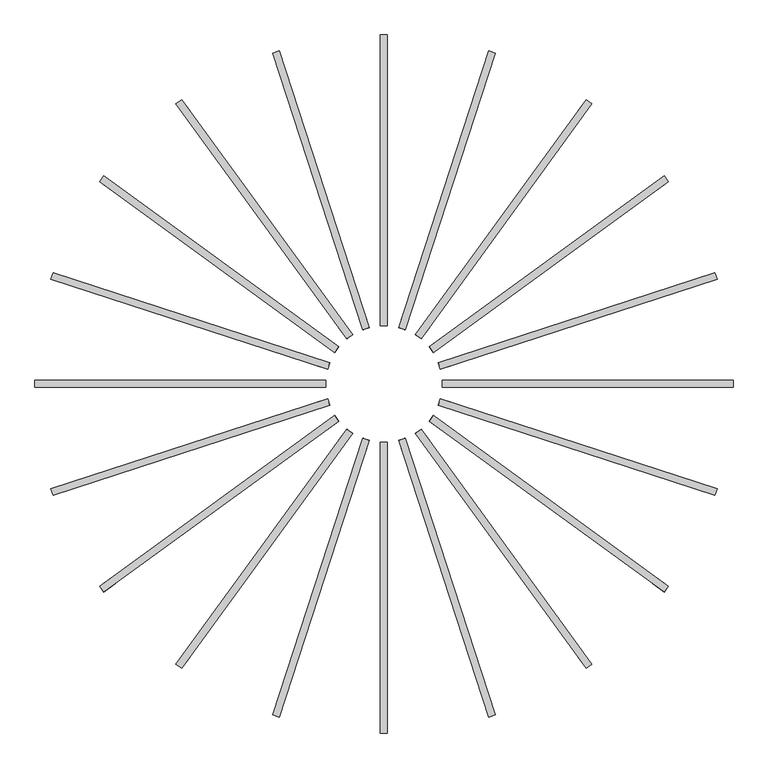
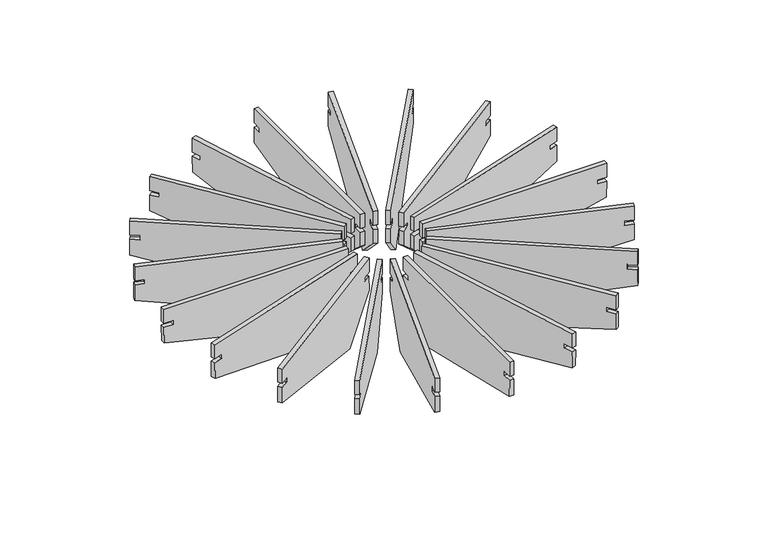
"""IFC4 building model written with IfcOpenShell, lengths in millimetres: proxy geometry, Drizzle 7.3dm."""

from ifc_helpers import new_model, si_unit, origin, place, context, project, spatial, faceted_brep, source, transform, mapped, element, save


def generic_models_dbc1dc67(model_context):
    return source(origin(), model_context, "Body", "Brep", [
        faceted_brep([(19032.1084725, 642.9735529, -8.9371706), (19032.1084858, 642.9735486, -48.9371706), (19028.4003086, 631.5608617, -48.9371706), (19028.4002953, 631.5608661, -8.9371706), (19055.9157291, 635.2381681, -48.9371706), (19052.207552, 623.8254812, -48.9371706), (19055.9157291, 635.2381681, -60.9371706), (19052.207552, 623.8254812, -60.9371706), (19032.1798698, 642.9503547, -60.9379216), (19028.4716926, 631.5376678, -60.9379216), (19032.1084414, 642.973563, -100.9371706), (19028.4002642, 631.5608762, -100.9371706), (19138.5574659, 608.3864543, -198.2564208), (19134.8492887, 596.9737674, -198.2564208), (19507.2102257, 488.6048673, -105.9327302), (19503.5020485, 477.1921804, -105.9327302), (19507.6381633, 488.4658231, -60.9371706), (19503.9299861, 477.0531362, -60.9371706), (19483.9987457, 496.1466742, -60.9371706), (19480.2905686, 484.7339873, -60.9371706), (19483.9987457, 496.1466742, -48.9371706), (19480.2905686, 484.7339873, -48.9371706), (19507.6381633, 488.4658231, -48.9371706), (19503.9299861, 477.0531362, -48.9371706), (19507.6381944, 488.465813, -8.9371706), (19503.9300172, 477.0531261, -8.9371706)], [[[0, 1, 2, 3]], [[1, 4, 5, 2]], [[4, 6, 7, 5]], [[6, 8, 9, 7]], [[8, 10, 11, 9]], [[10, 12, 13, 11]], [[12, 14, 15, 13]], [[14, 16, 17, 15]], [[16, 18, 19, 17]], [[18, 20, 21, 19]], [[20, 22, 23, 21]], [[22, 24, 25, 23]], [[24, 0, 3, 25]], [[0, 24, 22, 20, 18, 16, 14, 12, 10, 8, 6, 4, 1]], [[3, 2, 5, 7, 9, 11, 13, 15, 17, 19, 21, 23, 25]]]),
        faceted_brep([(19019.5771808, 614.2444985, -8.9371706), (19019.5771922, 614.2444903, -48.9371706), (19012.5237602, 604.5362928, -48.9371706), (19012.5237489, 604.5363011, -8.9371706), (19039.828814, 599.5307972, -48.9371706), (19032.775382, 589.8225998, -48.9371706), (19039.828814, 599.5307972, -60.9371706), (19032.775382, 589.8225998, -60.9371706), (19019.637915, 614.2003725, -60.9379216), (19012.584483, 604.4921751, -60.9379216), (19019.5771544, 614.2445177, -100.9371706), (19012.5237224, 604.5363203, -100.9371706), (19110.1279734, 548.4553691, -198.2564208), (19103.0745414, 538.7471716, -198.2564208), (19423.7222924, 320.6153177, -105.9327302), (19416.6688604, 310.9071202, -105.9327302), (19424.0863173, 320.3508375, -60.9371706), (19417.0328853, 310.6426401, -60.9371706), (19403.9774565, 334.9608085, -60.9371706), (19396.9240245, 325.2526111, -60.9371706), (19403.9774565, 334.9608085, -48.9371706), (19396.9240245, 325.2526111, -48.9371706), (19424.0863173, 320.3508375, -48.9371706), (19417.0328853, 310.6426401, -48.9371706), (19424.0863438, 320.3508183, -8.9371706), (19417.0329118, 310.6426209, -8.9371706)], [[[0, 1, 2, 3]], [[1, 4, 5, 2]], [[4, 6, 7, 5]], [[6, 8, 9, 7]], [[8, 10, 11, 9]], [[10, 12, 13, 11]], [[12, 14, 15, 13]], [[14, 16, 17, 15]], [[16, 18, 19, 17]], [[18, 20, 21, 19]], [[20, 22, 23, 21]], [[22, 24, 25, 23]], [[24, 0, 3, 25]], [[0, 24, 22, 20, 18, 16, 14, 12, 10, 8, 6, 4, 1]], [[3, 2, 5, 7, 9, 11, 13, 15, 17, 19, 21, 23, 25]]]),
        faceted_brep([(18998.7818063, 590.7943515, -8.9371706), (18998.7818145, 590.7943402, -48.9371706), (18989.0736206, 583.7409033, -48.9371706), (18989.0736124, 583.7409147, -8.9371706), (19013.4955178, 570.5427258, -48.9371706), (19003.7873239, 563.489289, -48.9371706), (19013.4955178, 570.5427258, -60.9371706), (19003.7873239, 563.489289, -60.9371706), (18998.8259323, 590.7336175, -60.9379216), (18989.1177384, 583.6801806, -60.9379216), (18998.7817871, 590.794378, -100.9371706), (18989.0735932, 583.7409411, -100.9371706), (19064.5709814, 500.2435922, -198.2564208), (19054.8627875, 493.1901553, -198.2564208), (19292.411191, 186.6493882, -105.9327302), (19282.7029972, 179.5959513, -105.9327302), (19292.6756713, 186.2853634, -60.9371706), (19282.9674775, 179.2319265, -60.9371706), (19278.0656902, 206.3942168, -60.9371706), (19268.3574964, 199.34078, -60.9371706), (19278.0656902, 206.3942168, -48.9371706), (19268.3574964, 199.34078, -48.9371706), (19292.6756713, 186.2853634, -48.9371706), (19282.9674775, 179.2319265, -48.9371706), (19292.6756906, 186.2853369, -8.9371706), (19282.9674967, 179.2319, -8.9371706)], [[[0, 1, 2, 3]], [[1, 4, 5, 2]], [[4, 6, 7, 5]], [[6, 8, 9, 7]], [[8, 10, 11, 9]], [[10, 12, 13, 11]], [[12, 14, 15, 13]], [[14, 16, 17, 15]], [[16, 18, 19, 17]], [[18, 20, 21, 19]], [[20, 22, 23, 21]], [[22, 24, 25, 23]], [[24, 0, 3, 25]], [[0, 24, 22, 20, 18, 16, 14, 12, 10, 8, 6, 4, 1]], [[3, 2, 5, 7, 9, 11, 13, 15, 17, 19, 21, 23, 25]]]),
        faceted_brep([(18971.7569727, 574.9176829, -8.9371706), (18971.756977, 574.9176696, -48.9371706), (18960.344281, 571.2095205, -48.9371706), (18960.3442767, 571.2095338, -8.9371706), (18979.492299, 551.1104072, -48.9371706), (18968.0796029, 547.4022581, -48.9371706), (18979.492299, 551.1104072, -60.9371706), (18968.0796029, 547.4022581, -60.9371706), (18971.7801707, 574.8462855, -60.9379216), (18960.3674747, 571.1381364, -60.9379216), (18971.7569626, 574.917714, -100.9371706), (18960.3442666, 571.2095649, -100.9371706), (19006.3438093, 468.4686043, -198.2564208), (18994.9311133, 464.7604553, -198.2564208), (19126.1244888, 99.8155496, -105.9327302), (19114.7117927, 96.1074006, -105.9327302), (19126.263532, 99.3876117, -60.9371706), (19114.8508359, 95.6794626, -60.9371706), (19118.5827391, 123.0270482, -60.9371706), (19107.170043, 119.3188991, -60.9371706), (19118.5827391, 123.0270482, -48.9371706), (19107.170043, 119.3188991, -48.9371706), (19126.263532, 99.3876117, -48.9371706), (19114.8508359, 95.6794626, -48.9371706), (19126.2635421, 99.3875806, -8.9371706), (19114.850846, 95.6794315, -8.9371706)], [[[0, 1, 2, 3]], [[1, 4, 5, 2]], [[4, 6, 7, 5]], [[6, 8, 9, 7]], [[8, 10, 11, 9]], [[10, 12, 13, 11]], [[12, 14, 15, 13]], [[14, 16, 17, 15]], [[16, 18, 19, 17]], [[18, 20, 21, 19]], [[20, 22, 23, 21]], [[22, 24, 25, 23]], [[24, 0, 3, 25]], [[0, 24, 22, 20, 18, 16, 14, 12, 10, 8, 6, 4, 1]], [[3, 2, 5, 7, 9, 11, 13, 15, 17, 19, 21, 23, 25]]]),
        faceted_brep([(18941.1497302, 568.1694636, -8.9371706), (18941.1497302, 568.1694496, -48.9371706), (18929.1497302, 568.1694496, -48.9371706), (18929.1497302, 568.1694636, -8.9371706), (18941.1497302, 543.1370516, -48.9371706), (18929.1497302, 543.1370516, -48.9371706), (18941.1497302, 543.1370516, -60.9371706), (18929.1497302, 543.1370516, -60.9371706), (18941.1497302, 568.094392, -60.9379216), (18929.1497302, 568.094392, -60.9379216), (18941.1497302, 568.1694963, -100.9371706), (18929.1497302, 568.1694963, -100.9371706), (18941.1497302, 456.2424535, -198.2564208), (18929.1497302, 456.2424535, -198.2564208), (18941.1497302, 68.618298, -105.9327302), (18929.1497302, 68.618298, -105.9327302), (18941.1497302, 68.1683381, -60.9371706), (18929.1497302, 68.1683381, -60.9371706), (18941.1497302, 93.0242738, -60.9371706), (18929.1497302, 93.0242738, -60.9371706), (18941.1497302, 93.0242738, -48.9371706), (18929.1497302, 93.0242738, -48.9371706), (18941.1497302, 68.1683381, -48.9371706), (18929.1497302, 68.1683381, -48.9371706), (18941.1497302, 68.1683055, -8.9371706), (18929.1497302, 68.1683055, -8.9371706)], [[[0, 1, 2, 3]], [[1, 4, 5, 2]], [[4, 6, 7, 5]], [[6, 8, 9, 7]], [[8, 10, 11, 9]], [[10, 12, 13, 11]], [[12, 14, 15, 13]], [[14, 16, 17, 15]], [[16, 18, 19, 17]], [[18, 20, 21, 19]], [[20, 22, 23, 21]], [[22, 24, 25, 23]], [[24, 0, 3, 25]], [[0, 24, 22, 20, 18, 16, 14, 12, 10, 8, 6, 4, 1]], [[3, 2, 5, 7, 9, 11, 13, 15, 17, 19, 21, 23, 25]]]),
        faceted_brep([(18909.954945, 571.2095958, -8.9371706), (18909.9549406, 571.2095825, -48.9371706), (18898.5422538, 574.9177597, -48.9371706), (18898.5422581, 574.917773, -8.9371706), (18902.2195601, 547.4023391, -48.9371706), (18890.8068732, 551.1105163, -48.9371706), (18902.2195601, 547.4023391, -60.9371706), (18890.8068732, 551.1105163, -60.9371706), (18909.9317468, 571.1381985, -60.9379216), (18898.5190599, 574.8463757, -60.9379216), (18909.9549551, 571.2096269, -100.9371706), (18898.5422682, 574.9178041, -100.9371706), (18875.3678463, 464.7606024, -198.2564208), (18863.9551595, 468.4687796, -198.2564208), (18755.5862594, 96.1078426, -105.9327302), (18744.1735725, 99.8160198, -105.9327302), (18755.4472151, 95.679905, -60.9371706), (18744.0345282, 99.3880822, -60.9371706), (18763.1280662, 119.3193226, -60.9371706), (18751.7153793, 123.0274997, -60.9371706), (18763.1280662, 119.3193226, -48.9371706), (18751.7153793, 123.0274997, -48.9371706), (18755.4472151, 95.679905, -48.9371706), (18744.0345282, 99.3880822, -48.9371706), (18755.447205, 95.6798739, -8.9371706), (18744.0345181, 99.3880511, -8.9371706)], [[[0, 1, 2, 3]], [[1, 4, 5, 2]], [[4, 6, 7, 5]], [[6, 8, 9, 7]], [[8, 10, 11, 9]], [[10, 12, 13, 11]], [[12, 14, 15, 13]], [[14, 16, 17, 15]], [[16, 18, 19, 17]], [[18, 20, 21, 19]], [[20, 22, 23, 21]], [[22, 24, 25, 23]], [[24, 0, 3, 25]], [[0, 24, 22, 20, 18, 16, 14, 12, 10, 8, 6, 4, 1]], [[3, 2, 5, 7, 9, 11, 13, 15, 17, 19, 21, 23, 25]]]),
        faceted_brep([(18881.2258905, 583.7408875, -8.9371706), (18881.2258823, 583.7408761, -48.9371706), (18871.5176849, 590.7943081, -48.9371706), (18871.5176931, 590.7943194, -8.9371706), (18866.5121892, 563.4892543, -48.9371706), (18856.8039918, 570.5426863, -48.9371706), (18866.5121892, 563.4892543, -60.9371706), (18856.8039918, 570.5426863, -60.9371706), (18881.1817645, 583.6801533, -60.9379216), (18871.4735671, 590.7335853, -60.9379216), (18881.2259097, 583.7409139, -100.9371706), (18871.5177123, 590.7943459, -100.9371706), (18815.4367611, 493.1900949, -198.2564208), (18805.7285637, 500.2435269, -198.2564208), (18587.5967097, 179.5957759, -105.9327302), (18577.8885123, 186.6492079, -105.9327302), (18587.3322296, 179.231751, -60.9371706), (18577.6240321, 186.2851829, -60.9371706), (18601.9422005, 199.3406118, -60.9371706), (18592.2340031, 206.3940438, -60.9371706), (18601.9422005, 199.3406118, -48.9371706), (18592.2340031, 206.3940438, -48.9371706), (18587.3322296, 179.231751, -48.9371706), (18577.6240321, 186.2851829, -48.9371706), (18587.3322104, 179.2317245, -8.9371706), (18577.6240129, 186.2851565, -8.9371706)], [[[0, 1, 2, 3]], [[1, 4, 5, 2]], [[4, 6, 7, 5]], [[6, 8, 9, 7]], [[8, 10, 11, 9]], [[10, 12, 13, 11]], [[12, 14, 15, 13]], [[14, 16, 17, 15]], [[16, 18, 19, 17]], [[18, 20, 21, 19]], [[20, 22, 23, 21]], [[22, 24, 25, 23]], [[24, 0, 3, 25]], [[0, 24, 22, 20, 18, 16, 14, 12, 10, 8, 6, 4, 1]], [[3, 2, 5, 7, 9, 11, 13, 15, 17, 19, 21, 23, 25]]]),
        faceted_brep([(18857.7757436, 604.536262, -8.9371706), (18857.7757322, 604.5362538, -48.9371706), (18850.7222954, 614.2444476, -48.9371706), (18850.7223067, 614.2444559, -8.9371706), (18837.5241179, 589.8225505, -48.9371706), (18830.470681, 599.5307444, -48.9371706), (18837.5241179, 589.8225505, -60.9371706), (18830.470681, 599.5307444, -60.9371706), (18857.7150095, 604.492136, -60.9379216), (18850.6615726, 614.2003299, -60.9379216), (18857.77577, 604.5362812, -100.9371706), (18850.7223331, 614.2444751, -100.9371706), (18767.2249842, 538.7470869, -198.2564208), (18760.1715473, 548.4552808, -198.2564208), (18453.6307802, 310.9068772, -105.9327302), (18446.5773433, 320.6150711, -105.9327302), (18453.2667554, 310.6423969, -60.9371706), (18446.2133185, 320.3505908, -60.9371706), (18473.3756089, 325.252378, -60.9371706), (18466.322172, 334.9605719, -60.9371706), (18473.3756089, 325.252378, -48.9371706), (18466.322172, 334.9605719, -48.9371706), (18453.2667554, 310.6423969, -48.9371706), (18446.2133185, 320.3505908, -48.9371706), (18453.2667289, 310.6423777, -8.9371706), (18446.2132921, 320.3505716, -8.9371706)], [[[0, 1, 2, 3]], [[1, 4, 5, 2]], [[4, 6, 7, 5]], [[6, 8, 9, 7]], [[8, 10, 11, 9]], [[10, 12, 13, 11]], [[12, 14, 15, 13]], [[14, 16, 17, 15]], [[16, 18, 19, 17]], [[18, 20, 21, 19]], [[20, 22, 23, 21]], [[22, 24, 25, 23]], [[24, 0, 3, 25]], [[0, 24, 22, 20, 18, 16, 14, 12, 10, 8, 6, 4, 1]], [[3, 2, 5, 7, 9, 11, 13, 15, 17, 19, 21, 23, 25]]]),
        faceted_brep([(18841.8990749, 631.5610956, -8.9371706), (18841.8990616, 631.5610913, -48.9371706), (18838.1909125, 642.9737873, -48.9371706), (18838.1909258, 642.9737916, -8.9371706), (18818.0917992, 623.8257693, -48.9371706), (18814.3836501, 635.2384653, -48.9371706), (18818.0917992, 623.8257693, -60.9371706), (18814.3836501, 635.2384653, -60.9371706), (18841.8276775, 631.5378976, -60.9379216), (18838.1195284, 642.9505936, -60.9379216), (18841.899106, 631.5611057, -100.9371706), (18838.1909569, 642.9738017, -100.9371706), (18735.4499964, 596.974259, -198.2564208), (18731.7418473, 608.386955, -198.2564208), (18366.7969417, 477.1935795, -105.9327302), (18363.0887926, 488.6062756, -105.9327302), (18366.3690037, 477.0545363, -60.9371706), (18362.6608546, 488.4672324, -60.9371706), (18390.0084402, 484.7353292, -60.9371706), (18386.3002911, 496.1480253, -60.9371706), (18390.0084402, 484.7353292, -48.9371706), (18386.3002911, 496.1480253, -48.9371706), (18366.3690037, 477.0545363, -48.9371706), (18362.6608546, 488.4672324, -48.9371706), (18366.3689726, 477.0545262, -8.9371706), (18362.6608236, 488.4672223, -8.9371706)], [[[0, 1, 2, 3]], [[1, 4, 5, 2]], [[4, 6, 7, 5]], [[6, 8, 9, 7]], [[8, 10, 11, 9]], [[10, 12, 13, 11]], [[12, 14, 15, 13]], [[14, 16, 17, 15]], [[16, 18, 19, 17]], [[18, 20, 21, 19]], [[20, 22, 23, 21]], [[22, 24, 25, 23]], [[24, 0, 3, 25]], [[0, 24, 22, 20, 18, 16, 14, 12, 10, 8, 6, 4, 1]], [[3, 2, 5, 7, 9, 11, 13, 15, 17, 19, 21, 23, 25]]]),
        faceted_brep([(18835.1508556, 662.1683381, -8.9371706), (18835.1508416, 662.1683381, -48.9371706), (18835.1508416, 674.1683381, -48.9371706), (18835.1508556, 674.1683381, -8.9371706), (18810.1184436, 662.1683381, -48.9371706), (18810.1184436, 674.1683381, -48.9371706), (18810.1184436, 662.1683381, -60.9371706), (18810.1184436, 674.1683381, -60.9371706), (18835.0757841, 662.1683381, -60.9379216), (18835.0757841, 674.1683381, -60.9379216), (18835.1508883, 662.1683381, -100.9371706), (18835.1508883, 674.1683381, -100.9371706), (18723.2238455, 662.1683381, -198.2564208), (18723.2238455, 674.1683381, -198.2564208), (18335.59969, 662.1683381, -105.9327302), (18335.59969, 674.1683381, -105.9327302), (18335.1497302, 662.1683381, -60.9371706), (18335.1497302, 674.1683381, -60.9371706), (18360.0056658, 662.1683381, -60.9371706), (18360.0056658, 674.1683381, -60.9371706), (18360.0056658, 662.1683381, -48.9371706), (18360.0056658, 674.1683381, -48.9371706), (18335.1497302, 662.1683381, -48.9371706), (18335.1497302, 674.1683381, -48.9371706), (18335.1496975, 662.1683381, -8.9371706), (18335.1496975, 674.1683381, -8.9371706)], [[[0, 1, 2, 3]], [[1, 4, 5, 2]], [[4, 6, 7, 5]], [[6, 8, 9, 7]], [[8, 10, 11, 9]], [[10, 12, 13, 11]], [[12, 14, 15, 13]], [[14, 16, 17, 15]], [[16, 18, 19, 17]], [[18, 20, 21, 19]], [[20, 22, 23, 21]], [[22, 24, 25, 23]], [[24, 0, 3, 25]], [[0, 24, 22, 20, 18, 16, 14, 12, 10, 8, 6, 4, 1]], [[3, 2, 5, 7, 9, 11, 13, 15, 17, 19, 21, 23, 25]]]),
        faceted_brep([(18838.1909878, 693.3631233, -8.9371706), (18838.1909745, 693.3631277, -48.9371706), (18841.8991517, 704.7758145, -48.9371706), (18841.899165, 704.7758102, -8.9371706), (18814.3837312, 701.0985082, -48.9371706), (18818.0919083, 712.5111951, -48.9371706), (18814.3837312, 701.0985082, -60.9371706), (18818.0919083, 712.5111951, -60.9371706), (18838.1195905, 693.3863215, -60.9379216), (18841.8277677, 704.7990084, -60.9379216), (18838.1910189, 693.3631132, -100.9371706), (18841.8991961, 704.7758001, -100.9371706), (18731.7419945, 727.9502219, -198.2564208), (18735.4501716, 739.3629088, -198.2564208), (18363.0892346, 847.7318089, -105.9327302), (18366.7974118, 859.1444958, -105.9327302), (18362.661297, 847.8708532, -60.9371706), (18366.3694742, 859.2835401, -60.9371706), (18386.3007146, 840.1900021, -60.9371706), (18390.0088917, 851.602689, -60.9371706), (18386.3007146, 840.1900021, -48.9371706), (18390.0088917, 851.602689, -48.9371706), (18362.661297, 847.8708532, -48.9371706), (18366.3694742, 859.2835401, -48.9371706), (18362.6612659, 847.8708633, -8.9371706), (18366.3694431, 859.2835502, -8.9371706)], [[[0, 1, 2, 3]], [[1, 4, 5, 2]], [[4, 6, 7, 5]], [[6, 8, 9, 7]], [[8, 10, 11, 9]], [[10, 12, 13, 11]], [[12, 14, 15, 13]], [[14, 16, 17, 15]], [[16, 18, 19, 17]], [[18, 20, 21, 19]], [[20, 22, 23, 21]], [[22, 24, 25, 23]], [[24, 0, 3, 25]], [[0, 24, 22, 20, 18, 16, 14, 12, 10, 8, 6, 4, 1]], [[3, 2, 5, 7, 9, 11, 13, 15, 17, 19, 21, 23, 25]]]),
        faceted_brep([(18850.7222795, 722.0921778, -8.9371706), (18850.7222681, 722.092186, -48.9371706), (18857.7757001, 731.8003834, -48.9371706), (18857.7757115, 731.8003752, -8.9371706), (18830.4706463, 736.8058791, -48.9371706), (18837.5240783, 746.5140765, -48.9371706), (18830.4706463, 736.8058791, -60.9371706), (18837.5240783, 746.5140765, -60.9371706), (18850.6615454, 722.1363038, -60.9379216), (18857.7149774, 731.8445012, -60.9379216), (18850.7223059, 722.0921586, -100.9371706), (18857.7757379, 731.800356, -100.9371706), (18760.1714869, 787.8813072, -198.2564208), (18767.2249189, 797.5895046, -198.2564208), (18446.5771679, 1015.7213586, -105.9327302), (18453.6305999, 1025.429556, -105.9327302), (18446.213143, 1015.9858387, -60.9371706), (18453.266575, 1025.6940362, -60.9371706), (18466.3220038, 1001.3758678, -60.9371706), (18473.3754358, 1011.0840652, -60.9371706), (18466.3220038, 1001.3758678, -48.9371706), (18473.3754358, 1011.0840652, -48.9371706), (18446.213143, 1015.9858387, -48.9371706), (18453.266575, 1025.6940362, -48.9371706), (18446.2131165, 1015.9858579, -8.9371706), (18453.2665485, 1025.6940554, -8.9371706)], [[[0, 1, 2, 3]], [[1, 4, 5, 2]], [[4, 6, 7, 5]], [[6, 8, 9, 7]], [[8, 10, 11, 9]], [[10, 12, 13, 11]], [[12, 14, 15, 13]], [[14, 16, 17, 15]], [[16, 18, 19, 17]], [[18, 20, 21, 19]], [[20, 22, 23, 21]], [[22, 24, 25, 23]], [[24, 0, 3, 25]], [[0, 24, 22, 20, 18, 16, 14, 12, 10, 8, 6, 4, 1]], [[3, 2, 5, 7, 9, 11, 13, 15, 17, 19, 21, 23, 25]]]),
        faceted_brep([(18871.517654, 745.5423247, -8.9371706), (18871.5176458, 745.5423361, -48.9371706), (18881.2258397, 752.5957729, -48.9371706), (18881.2258479, 752.5957616, -8.9371706), (18856.8039425, 765.7939504, -48.9371706), (18866.5121364, 772.8473873, -48.9371706), (18856.8039425, 765.7939504, -60.9371706), (18866.5121364, 772.8473873, -60.9371706), (18871.473528, 745.6030588, -60.9379216), (18881.1817219, 752.6564957, -60.9379216), (18871.5176732, 745.5422983, -100.9371706), (18881.2258671, 752.5957352, -100.9371706), (18805.7284789, 836.0930841, -198.2564208), (18815.4366728, 843.146521, -198.2564208), (18577.8882693, 1149.6872881, -105.9327302), (18587.5964631, 1156.740725, -105.9327302), (18577.623789, 1150.0513129, -60.9371706), (18587.3319828, 1157.1047498, -60.9371706), (18592.2337701, 1129.9424594, -60.9371706), (18601.9419639, 1136.9958963, -60.9371706), (18592.2337701, 1129.9424594, -48.9371706), (18601.9419639, 1136.9958963, -48.9371706), (18577.623789, 1150.0513129, -48.9371706), (18587.3319828, 1157.1047498, -48.9371706), (18577.6237698, 1150.0513393, -8.9371706), (18587.3319636, 1157.1047762, -8.9371706)], [[[0, 1, 2, 3]], [[1, 4, 5, 2]], [[4, 6, 7, 5]], [[6, 8, 9, 7]], [[8, 10, 11, 9]], [[10, 12, 13, 11]], [[12, 14, 15, 13]], [[14, 16, 17, 15]], [[16, 18, 19, 17]], [[18, 20, 21, 19]], [[20, 22, 23, 21]], [[22, 24, 25, 23]], [[24, 0, 3, 25]], [[0, 24, 22, 20, 18, 16, 14, 12, 10, 8, 6, 4, 1]], [[3, 2, 5, 7, 9, 11, 13, 15, 17, 19, 21, 23, 25]]]),
        faceted_brep([(18898.5424876, 761.4189934, -8.9371706), (18898.5424833, 761.4190067, -48.9371706), (18909.9551793, 765.1271558, -48.9371706), (18909.9551836, 765.1271425, -8.9371706), (18890.8071613, 785.2262691, -48.9371706), (18902.2198574, 788.9344182, -48.9371706), (18890.8071613, 785.2262691, -60.9371706), (18902.2198574, 788.9344182, -60.9371706), (18898.5192896, 761.4903908, -60.9379216), (18909.9319856, 765.1985399, -60.9379216), (18898.5424977, 761.4189623, -100.9371706), (18909.9551937, 765.1271114, -100.9371706), (18863.955651, 867.8680719, -198.2564208), (18875.3683471, 871.576221, -198.2564208), (18744.1749716, 1236.5211266, -105.9327302), (18755.5876676, 1240.2292757, -105.9327302), (18744.0359284, 1236.9490646, -60.9371706), (18755.4486244, 1240.6572136, -60.9371706), (18751.7167213, 1213.3096281, -60.9371706), (18763.1294173, 1217.0177772, -60.9371706), (18751.7167213, 1213.3096281, -48.9371706), (18763.1294173, 1217.0177772, -48.9371706), (18744.0359284, 1236.9490646, -48.9371706), (18755.4486244, 1240.6572136, -48.9371706), (18744.0359183, 1236.9490957, -8.9371706), (18755.4486143, 1240.6572447, -8.9371706)], [[[0, 1, 2, 3]], [[1, 4, 5, 2]], [[4, 6, 7, 5]], [[6, 8, 9, 7]], [[8, 10, 11, 9]], [[10, 12, 13, 11]], [[12, 14, 15, 13]], [[14, 16, 17, 15]], [[16, 18, 19, 17]], [[18, 20, 21, 19]], [[20, 22, 23, 21]], [[22, 24, 25, 23]], [[24, 0, 3, 25]], [[0, 24, 22, 20, 18, 16, 14, 12, 10, 8, 6, 4, 1]], [[3, 2, 5, 7, 9, 11, 13, 15, 17, 19, 21, 23, 25]]]),
        faceted_brep([(18929.1497302, 768.1672127, -8.9371706), (18929.1497302, 768.1672267, -48.9371706), (18941.1497302, 768.1672267, -48.9371706), (18941.1497302, 768.1672127, -8.9371706), (18929.1497302, 793.1996247, -48.9371706), (18941.1497302, 793.1996247, -48.9371706), (18929.1497302, 793.1996247, -60.9371706), (18941.1497302, 793.1996247, -60.9371706), (18929.1497302, 768.2422842, -60.9379216), (18941.1497302, 768.2422842, -60.9379216), (18929.1497302, 768.16718, -100.9371706), (18941.1497302, 768.16718, -100.9371706), (18929.1497302, 880.0942228, -198.2564208), (18941.1497302, 880.0942228, -198.2564208), (18929.1497302, 1267.7183783, -105.9327302), (18941.1497302, 1267.7183783, -105.9327302), (18929.1497302, 1268.1683381, -60.9371706), (18941.1497302, 1268.1683381, -60.9371706), (18929.1497302, 1243.3124025, -60.9371706), (18941.1497302, 1243.3124025, -60.9371706), (18929.1497302, 1243.3124025, -48.9371706), (18941.1497302, 1243.3124025, -48.9371706), (18929.1497302, 1268.1683381, -48.9371706), (18941.1497302, 1268.1683381, -48.9371706), (18929.1497302, 1268.1683708, -8.9371706), (18941.1497302, 1268.1683708, -8.9371706)], [[[0, 1, 2, 3]], [[1, 4, 5, 2]], [[4, 6, 7, 5]], [[6, 8, 9, 7]], [[8, 10, 11, 9]], [[10, 12, 13, 11]], [[12, 14, 15, 13]], [[14, 16, 17, 15]], [[16, 18, 19, 17]], [[18, 20, 21, 19]], [[20, 22, 23, 21]], [[22, 24, 25, 23]], [[24, 0, 3, 25]], [[0, 24, 22, 20, 18, 16, 14, 12, 10, 8, 6, 4, 1]], [[3, 2, 5, 7, 9, 11, 13, 15, 17, 19, 21, 23, 25]]]),
        faceted_brep([(18960.3445153, 765.1270804, -8.9371706), (18960.3445197, 765.1270938, -48.9371706), (18971.7572066, 761.4189166, -48.9371706), (18971.7572022, 761.4189033, -8.9371706), (18968.0799002, 788.9343371, -48.9371706), (18979.4925871, 785.22616, -48.9371706), (18968.0799002, 788.9343371, -60.9371706), (18979.4925871, 785.22616, -60.9371706), (18960.3677136, 765.1984778, -60.9379216), (18971.7804005, 761.4903006, -60.9379216), (18960.3445053, 765.1270494, -100.9371706), (18971.7571921, 761.4188722, -100.9371706), (18994.931614, 871.5760738, -198.2564208), (19006.3443009, 867.8678967, -198.2564208), (19114.713201, 1240.2288337, -105.9327302), (19126.1258878, 1236.5206565, -105.9327302), (19114.8522452, 1240.6567713, -60.9371706), (19126.2649321, 1236.9485941, -60.9371706), (19107.1713941, 1217.0173537, -60.9371706), (19118.584081, 1213.3091765, -60.9371706), (19107.1713941, 1217.0173537, -48.9371706), (19118.584081, 1213.3091765, -48.9371706), (19114.8522452, 1240.6567713, -48.9371706), (19126.2649321, 1236.9485941, -48.9371706), (19114.8522553, 1240.6568024, -8.9371706), (19126.2649422, 1236.9486252, -8.9371706)], [[[0, 1, 2, 3]], [[1, 4, 5, 2]], [[4, 6, 7, 5]], [[6, 8, 9, 7]], [[8, 10, 11, 9]], [[10, 12, 13, 11]], [[12, 14, 15, 13]], [[14, 16, 17, 15]], [[16, 18, 19, 17]], [[18, 20, 21, 19]], [[20, 22, 23, 21]], [[22, 24, 25, 23]], [[24, 0, 3, 25]], [[0, 24, 22, 20, 18, 16, 14, 12, 10, 8, 6, 4, 1]], [[3, 2, 5, 7, 9, 11, 13, 15, 17, 19, 21, 23, 25]]]),
        faceted_brep([(18989.0735698, 752.5957888, -8.9371706), (18989.073578, 752.5958001, -48.9371706), (18998.7817755, 745.5423682, -48.9371706), (18998.7817672, 745.5423568, -8.9371706), (19003.7872711, 772.8474219, -48.9371706), (19013.4954685, 765.79399, -48.9371706), (19003.7872711, 772.8474219, -60.9371706), (19013.4954685, 765.79399, -60.9371706), (18989.1176958, 752.6565229, -60.9379216), (18998.8258932, 745.6030909, -60.9379216), (18989.0735506, 752.5957624, -100.9371706), (18998.781748, 745.5423304, -100.9371706), (19054.8626992, 843.1465814, -198.2564208), (19064.5708967, 836.0931494, -198.2564208), (19282.7027506, 1156.7409004, -105.9327302), (19292.4109481, 1149.6874684, -105.9327302), (19282.9672308, 1157.1049253, -60.9371706), (19292.6754282, 1150.0514933, -60.9371706), (19268.3572598, 1136.9960645, -60.9371706), (19278.0654572, 1129.9426325, -60.9371706), (19268.3572598, 1136.9960645, -48.9371706), (19278.0654572, 1129.9426325, -48.9371706), (19282.9672308, 1157.1049253, -48.9371706), (19292.6754282, 1150.0514933, -48.9371706), (19282.96725, 1157.1049517, -8.9371706), (19292.6754474, 1150.0515198, -8.9371706)], [[[0, 1, 2, 3]], [[1, 4, 5, 2]], [[4, 6, 7, 5]], [[6, 8, 9, 7]], [[8, 10, 11, 9]], [[10, 12, 13, 11]], [[12, 14, 15, 13]], [[14, 16, 17, 15]], [[16, 18, 19, 17]], [[18, 20, 21, 19]], [[20, 22, 23, 21]], [[22, 24, 25, 23]], [[24, 0, 3, 25]], [[0, 24, 22, 20, 18, 16, 14, 12, 10, 8, 6, 4, 1]], [[3, 2, 5, 7, 9, 11, 13, 15, 17, 19, 21, 23, 25]]]),
        faceted_brep([(19012.5237167, 731.8004143, -8.9371706), (19012.5237281, 731.8004225, -48.9371706), (19019.577165, 722.0922286, -48.9371706), (19019.5771536, 722.0922204, -8.9371706), (19032.7753424, 746.5141258, -48.9371706), (19039.8287793, 736.8059319, -48.9371706), (19032.7753424, 746.5141258, -60.9371706), (19039.8287793, 736.8059319, -60.9371706), (19012.5844508, 731.8445403, -60.9379216), (19019.6378877, 722.1363464, -60.9379216), (19012.5236903, 731.800395, -100.9371706), (19019.5771272, 722.0922012, -100.9371706), (19103.0744761, 797.5895894, -198.2564208), (19110.127913, 787.8813955, -198.2564208), (19416.6686801, 1025.429799, -105.9327302), (19423.722117, 1015.7216052, -105.9327302), (19417.0327049, 1025.6942793, -60.9371706), (19424.0861418, 1015.9860855, -60.9371706), (19396.9238514, 1011.0842982, -60.9371706), (19403.9772883, 1001.3761044, -60.9371706), (19396.9238514, 1011.0842982, -48.9371706), (19403.9772883, 1001.3761044, -48.9371706), (19417.0327049, 1025.6942793, -48.9371706), (19424.0861418, 1015.9860855, -48.9371706), (19417.0327314, 1025.6942985, -8.9371706), (19424.0861683, 1015.9861047, -8.9371706)], [[[0, 1, 2, 3]], [[1, 4, 5, 2]], [[4, 6, 7, 5]], [[6, 8, 9, 7]], [[8, 10, 11, 9]], [[10, 12, 13, 11]], [[12, 14, 15, 13]], [[14, 16, 17, 15]], [[16, 18, 19, 17]], [[18, 20, 21, 19]], [[20, 22, 23, 21]], [[22, 24, 25, 23]], [[24, 0, 3, 25]], [[0, 24, 22, 20, 18, 16, 14, 12, 10, 8, 6, 4, 1]], [[3, 2, 5, 7, 9, 11, 13, 15, 17, 19, 21, 23, 25]]]),
        faceted_brep([(19028.4003854, 704.7755807, -8.9371706), (19028.4003987, 704.775585, -48.9371706), (19032.1085478, 693.362889, -48.9371706), (19032.1085345, 693.3628846, -8.9371706), (19052.2076611, 712.5109069, -48.9371706), (19055.9158102, 701.0982109, -48.9371706), (19052.2076611, 712.5109069, -60.9371706), (19055.9158102, 701.0982109, -60.9371706), (19028.4717828, 704.7987787, -60.9379216), (19032.1799319, 693.3860827, -60.9379216), (19028.4003543, 704.7755706, -100.9371706), (19032.1085034, 693.3628745, -100.9371706), (19134.849464, 739.3624172, -198.2564208), (19138.557613, 727.9497212, -198.2564208), (19503.5025186, 859.1430967, -105.9327302), (19507.2106677, 847.7304007, -105.9327302), (19503.9304566, 859.2821399, -60.9371706), (19507.6386057, 847.8694439, -60.9371706), (19480.2910201, 851.601347, -60.9371706), (19483.9991692, 840.188651, -60.9371706), (19480.2910201, 851.601347, -48.9371706), (19483.9991692, 840.188651, -48.9371706), (19503.9304566, 859.2821399, -48.9371706), (19507.6386057, 847.8694439, -48.9371706), (19503.9304877, 859.28215, -8.9371706), (19507.6386368, 847.869454, -8.9371706)], [[[0, 1, 2, 3]], [[1, 4, 5, 2]], [[4, 6, 7, 5]], [[6, 8, 9, 7]], [[8, 10, 11, 9]], [[10, 12, 13, 11]], [[12, 14, 15, 13]], [[14, 16, 17, 15]], [[16, 18, 19, 17]], [[18, 20, 21, 19]], [[20, 22, 23, 21]], [[22, 24, 25, 23]], [[24, 0, 3, 25]], [[0, 24, 22, 20, 18, 16, 14, 12, 10, 8, 6, 4, 1]], [[3, 2, 5, 7, 9, 11, 13, 15, 17, 19, 21, 23, 25]]]),
        faceted_brep([(19035.1486047, 674.1683381, -8.9371706), (19035.1486187, 674.1683381, -48.9371706), (19035.1486187, 662.1683381, -48.9371706), (19035.1486047, 662.1683381, -8.9371706), (19060.1810167, 674.1683381, -48.9371706), (19060.1810167, 662.1683381, -48.9371706), (19060.1810167, 674.1683381, -60.9371706), (19060.1810167, 662.1683381, -60.9371706), (19035.2236762, 674.1683381, -60.9379216), (19035.2236762, 662.1683381, -60.9379216), (19035.148572, 674.1683381, -100.9371706), (19035.148572, 662.1683381, -100.9371706), (19147.0756148, 674.1683381, -198.2564208), (19147.0756148, 662.1683381, -198.2564208), (19534.6997703, 674.1683381, -105.9327302), (19534.6997703, 662.1683381, -105.9327302), (19535.1497302, 674.1683381, -60.9371706), (19535.1497302, 662.1683381, -60.9371706), (19510.2937945, 674.1683381, -60.9371706), (19510.2937945, 662.1683381, -60.9371706), (19510.2937945, 674.1683381, -48.9371706), (19510.2937945, 662.1683381, -48.9371706), (19535.1497302, 674.1683381, -48.9371706), (19535.1497302, 662.1683381, -48.9371706), (19535.1497628, 674.1683381, -8.9371706), (19535.1497628, 662.1683381, -8.9371706)], [[[0, 1, 2, 3]], [[1, 4, 5, 2]], [[4, 6, 7, 5]], [[6, 8, 9, 7]], [[8, 10, 11, 9]], [[10, 12, 13, 11]], [[12, 14, 15, 13]], [[14, 16, 17, 15]], [[16, 18, 19, 17]], [[18, 20, 21, 19]], [[20, 22, 23, 21]], [[22, 24, 25, 23]], [[24, 0, 3, 25]], [[0, 24, 22, 20, 18, 16, 14, 12, 10, 8, 6, 4, 1]], [[3, 2, 5, 7, 9, 11, 13, 15, 17, 19, 21, 23, 25]]]),
    ])


if __name__ == "__main__":
    model = new_model("IFC4")
    model_context = context("Model", 3, world=origin())
    ifc_project = project(units=[si_unit("LENGTHUNIT", "METRE", prefix="MILLI")], contexts=[model_context])
    site = spatial("IfcSite", under=ifc_project)
    building = spatial("IfcBuilding", under=site)
    placement = place(None, origin())
    generic_models_shape = generic_models_dbc1dc67(model_context)
    element("IfcBuildingElementProxy", 1, Name="Drizzle 7.3dm", ObjectType="Drizzle 7.3dm", at=placement, inside=building, context=model_context, shape_type="MappedRepresentation", body=[
        mapped(generic_models_shape, transform((0.0, 0.0, 0.0), x_axis=(1.0, 0.0, 0.0), y_axis=(0.0, 1.0, 0.0), z_axis=(0.0, 0.0, 1.0))),
    ])
    save(model, "model.ifc")
